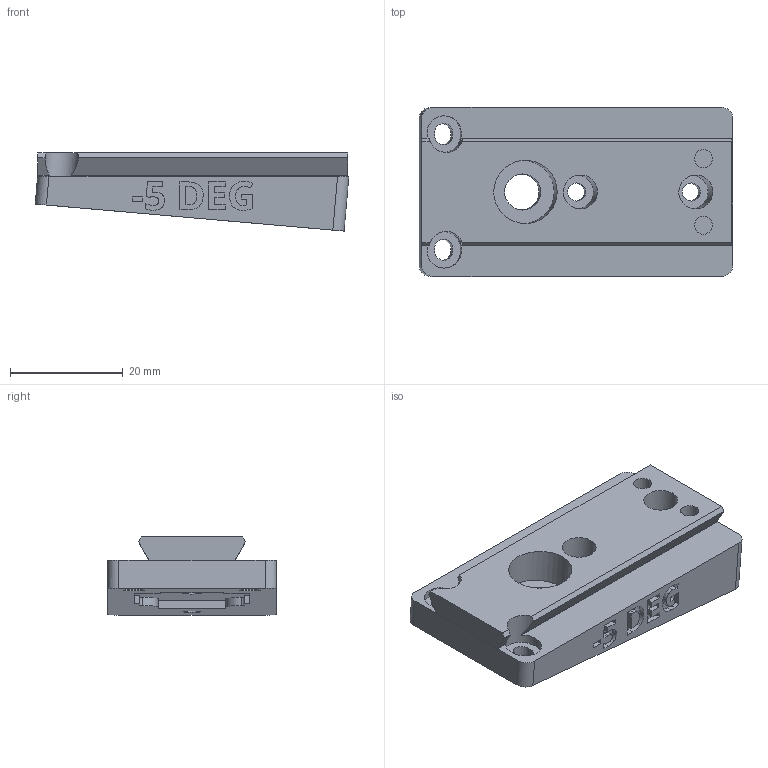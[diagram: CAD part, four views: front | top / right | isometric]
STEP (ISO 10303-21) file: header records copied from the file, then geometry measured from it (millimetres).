
FILE_DESCRIPTION(/* description */ ('STEP AP242 Edition 2','CAx-IF Rec.Pracs.---Representation and Presentation of Product Manufacturing Information (PMI)---4.0---2014-10-13','CAx-IF Rec.Pracs.---3D Tessellated Geometry---0.4---2014-09-14','2;1','CAx-IF Rec.Pracs.---User Defined Attributes---1.5---2016-08-15'),/* implementation_level */ '2;1');
FILE_NAME(/* name */ 'Camera Wedges - CAMERA MOUNTING WEDGE, NEG, -5 DEG',/* time_stamp */ '2026-07-08T20:36:59Z',/* author */ (''),/* organization */ (''),/* preprocessor_version */ 'ST-DEVELOPER v20',/* originating_system */ 'ONSHAPE BY PTC INC, 1.217',/* authorisation */ ' ');
FILE_SCHEMA (('AP242_MANAGED_MODEL_BASED_3D_ENGINEERING_MIM_LF { 1 0 10303 442 3 1 4 }'));
Length unit declared in the file: metre
Products named in the file (1): CAMERA MOUNTING WEDGE, NEG, -5 DEG
Bounding box: 55.64 x 30 x 13.86 mm (x, y, z)
Volume: 13627.3 mm3; surface area: 6430.2 mm2
Topology: 1 solids, 1 shells, 223 faces, 607 edges, 404 vertices
Faces by surface type: plane 135, cylinder 46, bspline 42
Full cylindrical faces by diameter (mm): 3.2 x4, 6 x2, 6.4 x1, 11.2 x1
Entity records: 7159 total; most frequent: CARTESIAN_POINT 1689, ORIENTED_EDGE 1198, DIRECTION 983, EDGE_CURVE 599, LINE 411, VECTOR 411, VERTEX_POINT 404, AXIS2_PLACEMENT_3D 286
